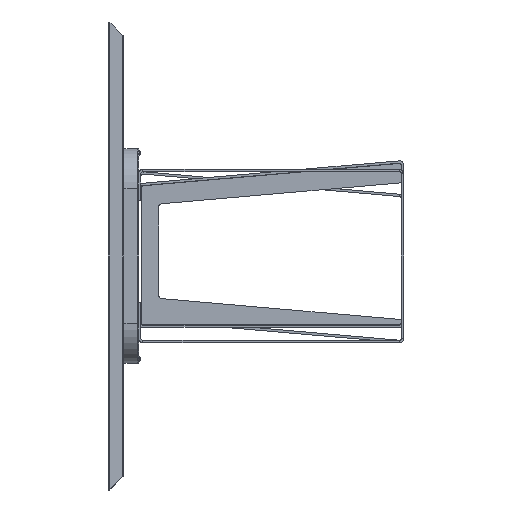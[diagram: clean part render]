
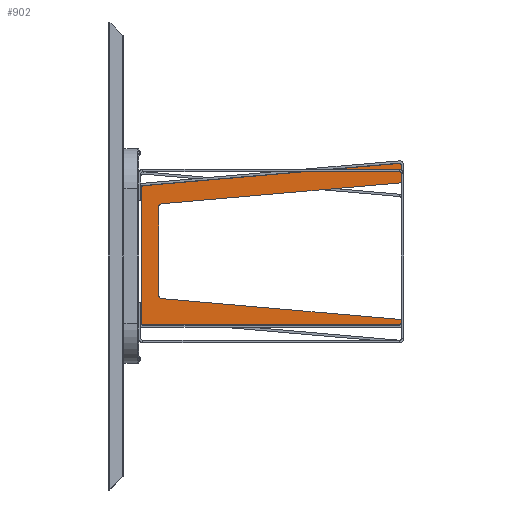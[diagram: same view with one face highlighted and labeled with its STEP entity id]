
A CAD part, left-side view. The second image highlights one B-rep face of the part: STEP entity #902.
In plain terms, the highlighted planar face has unit normal (-1, 0, 0) as drawn and (0, 0, 1) by its records, which use the part's own axes.
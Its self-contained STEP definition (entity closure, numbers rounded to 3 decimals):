
#120 = ORIENTED_EDGE ( 'NONE', *, *, #16823, .F. ) ;
#135 = DIRECTION ( 'NONE',  ( 1., 0., 0. ) ) ;
#238 = EDGE_CURVE ( 'NONE', #14192, #17708, #15096, .T. ) ;
#348 = DIRECTION ( 'NONE',  ( 0., 0., 1. ) ) ;
#452 = DIRECTION ( 'NONE',  ( 0., 0., 1. ) ) ;
#872 = EDGE_CURVE ( 'NONE', #4409, #11258, #6680, .T. ) ;
#902 = ADVANCED_FACE ( 'NONE', ( #1416 ), #1139, .F. ) ;
#957 = VECTOR ( 'NONE', #9164, 1000. ) ;
#1058 = AXIS2_PLACEMENT_3D ( 'NONE', #7784, #348, #17935 ) ;
#1137 = VECTOR ( 'NONE', #18238, 1000. ) ;
#1139 = PLANE ( 'NONE',  #18360 ) ;
#1386 = CARTESIAN_POINT ( 'NONE',  ( -162.284, 14.242, 15. ) ) ;
#1416 = FACE_OUTER_BOUND ( 'NONE', #5530, .T. ) ;
#1506 = DIRECTION ( 'NONE',  ( -0.087, 0.996, 0. ) ) ;
#1635 = CARTESIAN_POINT ( 'NONE',  ( 133.943, 621.197, 15. ) ) ;
#1664 = LINE ( 'NONE', #13095, #6814 ) ;
#2786 = VERTEX_POINT ( 'NONE', #14942 ) ;
#3465 = VERTEX_POINT ( 'NONE', #11273 ) ;
#3469 = ORIENTED_EDGE ( 'NONE', *, *, #238, .F. ) ;
#3904 = VERTEX_POINT ( 'NONE', #11376 ) ;
#3932 = CARTESIAN_POINT ( 'NONE',  ( 0., 628.5, 15. ) ) ;
#4005 = DIRECTION ( 'NONE',  ( 1., 0., 0. ) ) ;
#4007 = VERTEX_POINT ( 'NONE', #14819 ) ;
#4358 = ORIENTED_EDGE ( 'NONE', *, *, #9727, .T. ) ;
#4409 = VERTEX_POINT ( 'NONE', #1635 ) ;
#4732 = CARTESIAN_POINT ( 'NONE',  ( 187.722, 6.5, 15. ) ) ;
#4976 = CIRCLE ( 'NONE', #15640, 5. ) ;
#5070 = DIRECTION ( 'NONE',  ( 1., 0., 0. ) ) ;
#5427 = CARTESIAN_POINT ( 'NONE',  ( -171.5, 11.5, 15. ) ) ;
#5452 = LINE ( 'NONE', #3932, #10796 ) ;
#5530 = EDGE_LOOP ( 'NONE', ( #16027, #8784, #16245, #4358, #18686, #11456, #12811, #9249, #11674, #3469, #6204, #120, #15497, #13775 ) ) ;
#5850 = VERTEX_POINT ( 'NONE', #13277 ) ;
#5865 = EDGE_CURVE ( 'NONE', #4007, #4409, #15344, .T. ) ;
#6072 = CIRCLE ( 'NONE', #10939, 5. ) ;
#6204 = ORIENTED_EDGE ( 'NONE', *, *, #14904, .T. ) ;
#6301 = DIRECTION ( 'NONE',  ( 0., 0., -1. ) ) ;
#6387 = EDGE_CURVE ( 'NONE', #5850, #17708, #1664, .T. ) ;
#6680 = LINE ( 'NONE', #12483, #14365 ) ;
#6814 = VECTOR ( 'NONE', #135, 1000. ) ;
#6830 = CARTESIAN_POINT ( 'NONE',  ( -109.183, 621.197, 15. ) ) ;
#6878 = VECTOR ( 'NONE', #7560, 1000. ) ;
#7198 = DIRECTION ( 'NONE',  ( 0., 0., 1. ) ) ;
#7269 = LINE ( 'NONE', #16072, #6878 ) ;
#7285 = CARTESIAN_POINT ( 'NONE',  ( -177., 673.5, 15. ) ) ;
#7289 = AXIS2_PLACEMENT_3D ( 'NONE', #12387, #6301, #10964 ) ;
#7560 = DIRECTION ( 'NONE',  ( 1., 0., 0. ) ) ;
#7784 = CARTESIAN_POINT ( 'NONE',  ( -171.5, 668.5, 15. ) ) ;
#8233 = EDGE_CURVE ( 'NONE', #17783, #13709, #11897, .T. ) ;
#8271 = CARTESIAN_POINT ( 'NONE',  ( 0., 0., 15. ) ) ;
#8331 = VECTOR ( 'NONE', #1506, 1000. ) ;
#8465 = EDGE_CURVE ( 'NONE', #3465, #16573, #16601, .T. ) ;
#8784 = ORIENTED_EDGE ( 'NONE', *, *, #14422, .T. ) ;
#9164 = DIRECTION ( 'NONE',  ( -0.087, -0.996, 0. ) ) ;
#9249 = ORIENTED_EDGE ( 'NONE', *, *, #16083, .T. ) ;
#9444 = DIRECTION ( 'NONE',  ( 0., 0., -1. ) ) ;
#9505 = LINE ( 'NONE', #15052, #16076 ) ;
#9727 = EDGE_CURVE ( 'NONE', #13709, #2786, #16646, .T. ) ;
#10225 = AXIS2_PLACEMENT_3D ( 'NONE', #18025, #452, #13902 ) ;
#10370 = CARTESIAN_POINT ( 'NONE',  ( 179.514, 674., 15. ) ) ;
#10796 = VECTOR ( 'NONE', #10983, 1000. ) ;
#10939 = AXIS2_PLACEMENT_3D ( 'NONE', #17328, #7198, #18862 ) ;
#10964 = DIRECTION ( 'NONE',  ( 1., 0., 0. ) ) ;
#10983 = DIRECTION ( 'NONE',  ( -1., 0., 0. ) ) ;
#11089 = EDGE_CURVE ( 'NONE', #16573, #15176, #9505, .T. ) ;
#11258 = VERTEX_POINT ( 'NONE', #4732 ) ;
#11273 = CARTESIAN_POINT ( 'NONE',  ( -171.5, 673.5, 15. ) ) ;
#11376 = CARTESIAN_POINT ( 'NONE',  ( 232.456, 6.5, 15. ) ) ;
#11456 = ORIENTED_EDGE ( 'NONE', *, *, #8465, .T. ) ;
#11525 = DIRECTION ( 'NONE',  ( 0., 0., -1. ) ) ;
#11566 = CIRCLE ( 'NONE', #7289, 8. ) ;
#11674 = ORIENTED_EDGE ( 'NONE', *, *, #6387, .T. ) ;
#11851 = CARTESIAN_POINT ( 'NONE',  ( -101.213, 628.5, 15. ) ) ;
#11897 = LINE ( 'NONE', #10370, #8331 ) ;
#12387 = CARTESIAN_POINT ( 'NONE',  ( -101.213, 620.5, 15. ) ) ;
#12483 = CARTESIAN_POINT ( 'NONE',  ( 186.856, 16.392, 15. ) ) ;
#12577 = DIRECTION ( 'NONE',  ( 0.087, -0.996, 0. ) ) ;
#12660 = DIRECTION ( 'NONE',  ( 1., 0., 0. ) ) ;
#12671 = EDGE_CURVE ( 'NONE', #2786, #3465, #14543, .T. ) ;
#12811 = ORIENTED_EDGE ( 'NONE', *, *, #11089, .T. ) ;
#12881 = AXIS2_PLACEMENT_3D ( 'NONE', #18438, #9444, #5070 ) ;
#13095 = CARTESIAN_POINT ( 'NONE',  ( 238.457, 6.5, 15. ) ) ;
#13163 = VERTEX_POINT ( 'NONE', #11851 ) ;
#13277 = CARTESIAN_POINT ( 'NONE',  ( -171.5, 6.5, 15. ) ) ;
#13627 = DIRECTION ( 'NONE',  ( 0., -1., 0. ) ) ;
#13709 = VERTEX_POINT ( 'NONE', #15260 ) ;
#13775 = ORIENTED_EDGE ( 'NONE', *, *, #872, .T. ) ;
#13902 = DIRECTION ( 'NONE',  ( 1., 0., 0. ) ) ;
#14192 = VERTEX_POINT ( 'NONE', #6830 ) ;
#14365 = VECTOR ( 'NONE', #12577, 1000. ) ;
#14422 = EDGE_CURVE ( 'NONE', #3904, #17783, #6072, .T. ) ;
#14448 = CARTESIAN_POINT ( 'NONE',  ( 237.437, 11.936, 15. ) ) ;
#14543 = LINE ( 'NONE', #7285, #1137 ) ;
#14819 = CARTESIAN_POINT ( 'NONE',  ( 125.973, 628.5, 15. ) ) ;
#14904 = EDGE_CURVE ( 'NONE', #14192, #13163, #11566, .T. ) ;
#14942 = CARTESIAN_POINT ( 'NONE',  ( 174.976, 673.5, 15. ) ) ;
#15052 = CARTESIAN_POINT ( 'NONE',  ( -176.5, 11., 15. ) ) ;
#15096 = LINE ( 'NONE', #1386, #957 ) ;
#15176 = VERTEX_POINT ( 'NONE', #18607 ) ;
#15260 = CARTESIAN_POINT ( 'NONE',  ( 179.957, 668.936, 15. ) ) ;
#15344 = CIRCLE ( 'NONE', #12881, 8. ) ;
#15497 = ORIENTED_EDGE ( 'NONE', *, *, #5865, .T. ) ;
#15640 = AXIS2_PLACEMENT_3D ( 'NONE', #5427, #17254, #12660 ) ;
#15891 = CARTESIAN_POINT ( 'NONE',  ( -176.5, 668.5, 15. ) ) ;
#16027 = ORIENTED_EDGE ( 'NONE', *, *, #18337, .T. ) ;
#16072 = CARTESIAN_POINT ( 'NONE',  ( 238.457, 6.5, 15. ) ) ;
#16076 = VECTOR ( 'NONE', #13627, 1000. ) ;
#16083 = EDGE_CURVE ( 'NONE', #15176, #5850, #4976, .T. ) ;
#16245 = ORIENTED_EDGE ( 'NONE', *, *, #8233, .T. ) ;
#16573 = VERTEX_POINT ( 'NONE', #15891 ) ;
#16601 = CIRCLE ( 'NONE', #1058, 5. ) ;
#16646 = CIRCLE ( 'NONE', #10225, 5. ) ;
#16823 = EDGE_CURVE ( 'NONE', #4007, #13163, #5452, .T. ) ;
#17254 = DIRECTION ( 'NONE',  ( 0., 0., 1. ) ) ;
#17328 = CARTESIAN_POINT ( 'NONE',  ( 232.456, 11.5, 15. ) ) ;
#17708 = VERTEX_POINT ( 'NONE', #18313 ) ;
#17783 = VERTEX_POINT ( 'NONE', #14448 ) ;
#17935 = DIRECTION ( 'NONE',  ( 1., 0., 0. ) ) ;
#18025 = CARTESIAN_POINT ( 'NONE',  ( 174.976, 668.5, 15. ) ) ;
#18238 = DIRECTION ( 'NONE',  ( -1., 0., 0. ) ) ;
#18313 = CARTESIAN_POINT ( 'NONE',  ( -162.962, 6.5, 15. ) ) ;
#18337 = EDGE_CURVE ( 'NONE', #11258, #3904, #7269, .T. ) ;
#18360 = AXIS2_PLACEMENT_3D ( 'NONE', #8271, #11525, #4005 ) ;
#18438 = CARTESIAN_POINT ( 'NONE',  ( 125.973, 620.5, 15. ) ) ;
#18607 = CARTESIAN_POINT ( 'NONE',  ( -176.5, 11.5, 15. ) ) ;
#18686 = ORIENTED_EDGE ( 'NONE', *, *, #12671, .T. ) ;
#18862 = DIRECTION ( 'NONE',  ( 1., 0., 0. ) ) ;
